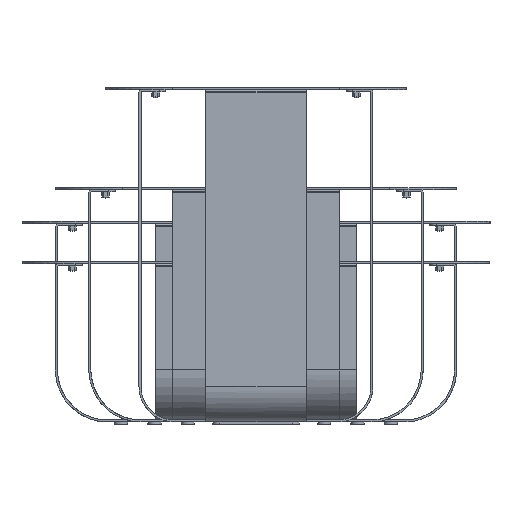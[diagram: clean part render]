
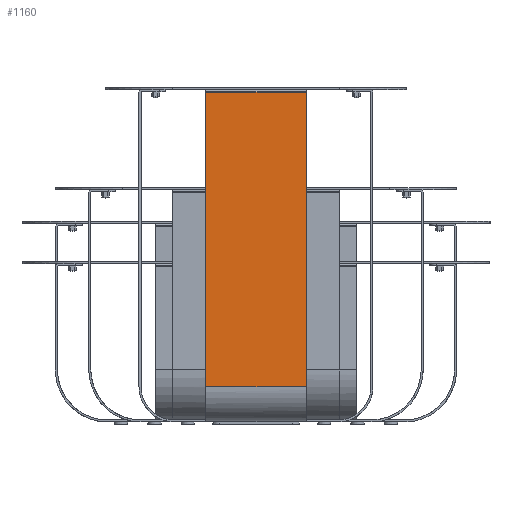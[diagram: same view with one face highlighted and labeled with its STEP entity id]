
A CAD part, left-side view. The second image highlights one B-rep face of the part: STEP entity #1160.
In plain terms, the highlighted planar face has unit normal (-1, 0, 0).
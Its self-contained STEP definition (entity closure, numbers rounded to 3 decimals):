
#1160=ADVANCED_FACE('',(#2080),#13403,.T.);
#2080=FACE_OUTER_BOUND('',#3000,.T.);
#3000=EDGE_LOOP('',(#7020,#7021,#7022,#7023));
#7020=ORIENTED_EDGE('',*,*,#9351,.F.);
#7021=ORIENTED_EDGE('',*,*,#9352,.F.);
#7022=ORIENTED_EDGE('',*,*,#9348,.F.);
#7023=ORIENTED_EDGE('',*,*,#9350,.F.);
#9348=EDGE_CURVE('',#12896,#12897,#10331,.T.);
#9350=EDGE_CURVE('',#12898,#12896,#10332,.T.);
#9351=EDGE_CURVE('',#12899,#12898,#10333,.T.);
#9352=EDGE_CURVE('',#12897,#12899,#10334,.T.);
#10331=B_SPLINE_CURVE_WITH_KNOTS('',1,(#27827,#27828),.UNSPECIFIED.,.F.,
 .F.,(2,2),(0.,150.),.UNSPECIFIED.);
#10332=B_SPLINE_CURVE_WITH_KNOTS('',1,(#27832,#27833),.UNSPECIFIED.,.F.,
 .F.,(2,2),(-440.,0.),.UNSPECIFIED.);
#10333=B_SPLINE_CURVE_WITH_KNOTS('',1,(#27834,#27835),.UNSPECIFIED.,.F.,
 .F.,(2,2),(-150.,0.),.UNSPECIFIED.);
#10334=B_SPLINE_CURVE_WITH_KNOTS('',1,(#27836,#27837),.UNSPECIFIED.,.F.,
 .F.,(2,2),(-440.,0.),.UNSPECIFIED.);
#12896=VERTEX_POINT('',#27654);
#12897=VERTEX_POINT('',#27655);
#12898=VERTEX_POINT('',#27656);
#12899=VERTEX_POINT('',#27657);
#13403=PLANE('',#14384);
#14384=AXIS2_PLACEMENT_3D('',#27582,#15019,$);
#15019=DIRECTION('',(-1.,0.,0.));
#27582=CARTESIAN_POINT('',(-175.,90.,12.5));
#27654=CARTESIAN_POINT('',(-175.,75.,496.5));
#27655=CARTESIAN_POINT('',(-175.,-75.,496.5));
#27656=CARTESIAN_POINT('',(-175.,75.,56.5));
#27657=CARTESIAN_POINT('',(-175.,-75.,56.5));
#27827=CARTESIAN_POINT('',(-175.,75.,496.5));
#27828=CARTESIAN_POINT('',(-175.,-75.,496.5));
#27832=CARTESIAN_POINT('',(-175.,75.,56.5));
#27833=CARTESIAN_POINT('',(-175.,75.,496.5));
#27834=CARTESIAN_POINT('',(-175.,-75.,56.5));
#27835=CARTESIAN_POINT('',(-175.,75.,56.5));
#27836=CARTESIAN_POINT('',(-175.,-75.,496.5));
#27837=CARTESIAN_POINT('',(-175.,-75.,56.5));
